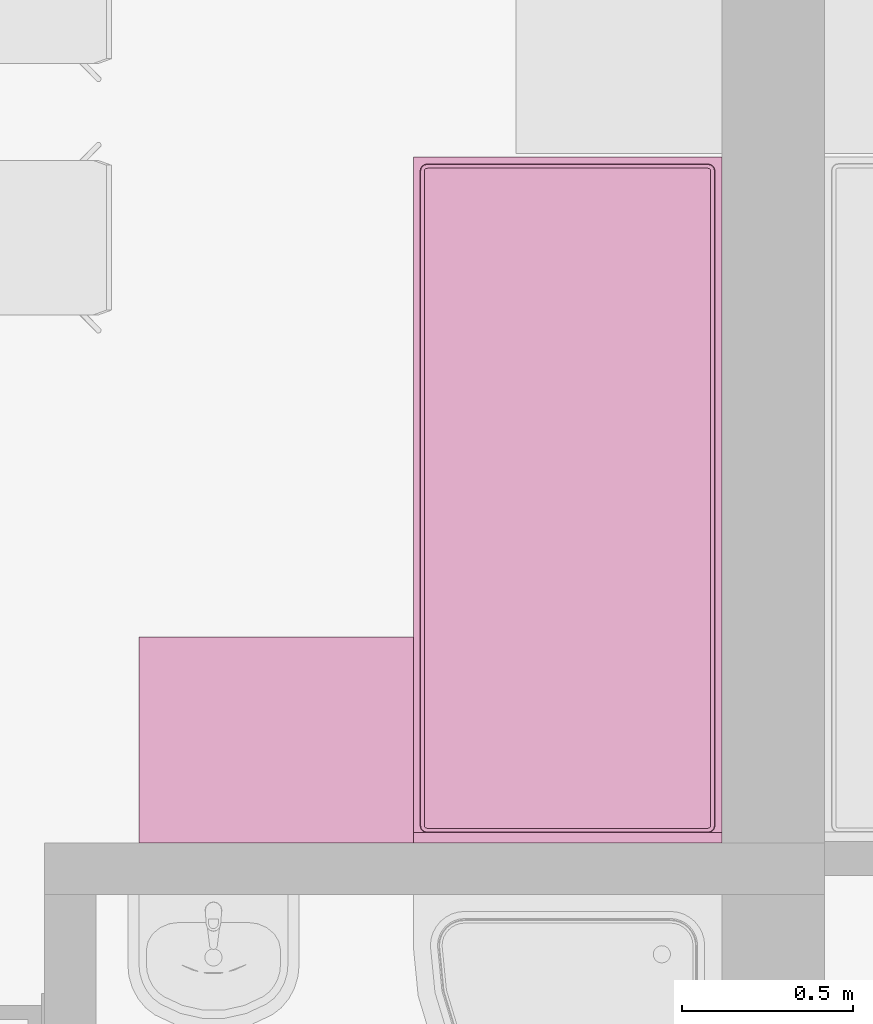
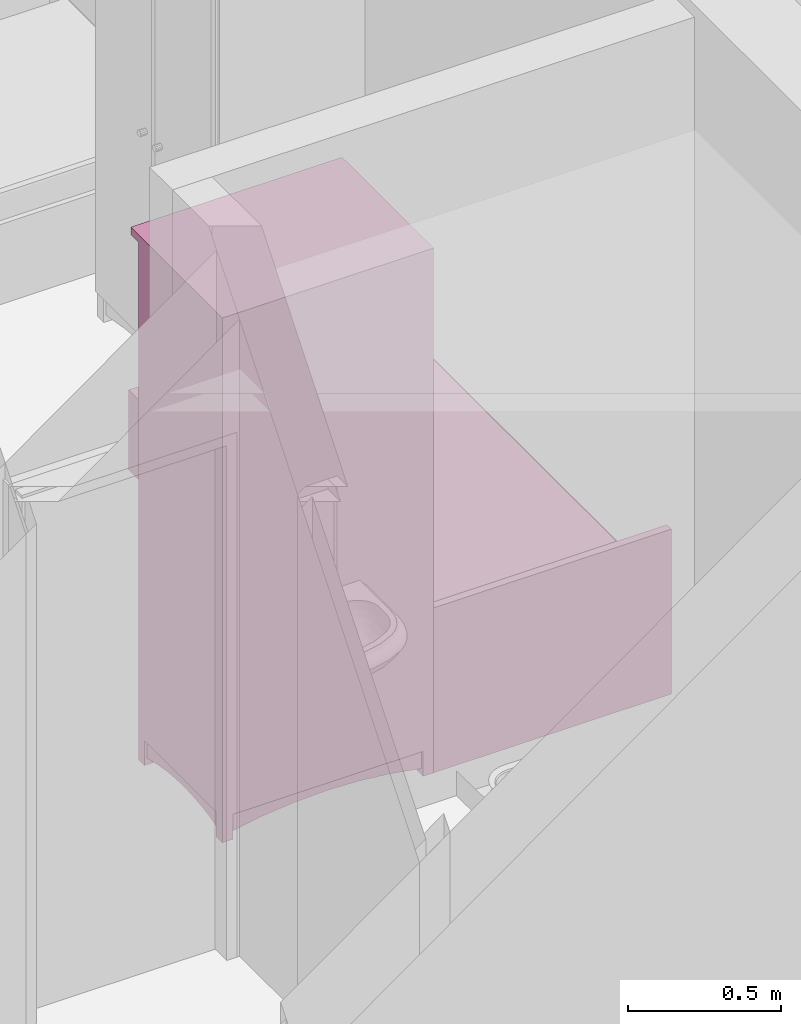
# One storey, part 130 of 165: 2 furnishings.
"""IFC2X3 building model written with IfcOpenShell, lengths in millimetres."""

from ifc_helpers import new_model, entity, si_unit, converted_unit, money_unit, direction, frame, origin_with_axes, place, context, subcontext, project, spatial, faceted_brep, source, transform, mapped, material, material_list, type_object, element, save


model = new_model("IFC2X3")

# Units and contexts
model_context = context("Model", 3, precision=1e-05, world=origin_with_axes(), true_north=direction((0.0, 1.0)))
body_context = subcontext(model_context, "Body", "Model", "MODEL_VIEW")
ifc_project = project(units=[si_unit("LENGTHUNIT", "METRE", prefix="MILLI"), si_unit("AREAUNIT", "SQUARE_METRE"), si_unit("VOLUMEUNIT", "CUBIC_METRE"), converted_unit("PLANEANGLEUNIT", "DEGREE", entity("IfcPlaneAngleMeasure", 0.0174532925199), si_unit("PLANEANGLEUNIT", "RADIAN"), dimensions=[0, 0, 0, 0, 0, 0, 0]), si_unit("SOLIDANGLEUNIT", "STERADIAN"), money_unit("USD"), converted_unit("TIMEUNIT", "Year", entity("IfcTimeMeasure", 31556926.0), si_unit("TIMEUNIT", "SECOND"), dimensions=[0, 0, 0, 0, 0, 0, 0]), si_unit("MASSUNIT", "GRAM"), si_unit("THERMODYNAMICTEMPERATUREUNIT", "DEGREE_CELSIUS"), si_unit("LUMINOUSINTENSITYUNIT", "LUMEN")], contexts=[model_context])

# Site, building, storey
site_placement = place(None, origin_with_axes())
site = spatial("IfcSite", under=ifc_project, at=site_placement, Name="Site", CompositionType="ELEMENT")
building_placement = place(site_placement, origin_with_axes())
building = spatial("IfcBuilding", under=site, at=building_placement, Name="Building", CompositionType="ELEMENT")
storey_placement = place(building_placement, frame((0.0, 0.0, 6300.0), z_axis=(0.0, 0.0, 1.0), x_axis=(1.0, 0.0, 0.0)))
storey = spatial("IfcBuildingStorey", under=building, at=storey_placement, Name="4KORRUS", CompositionType="ELEMENT", Elevation=6300.0)

# Furnishings
ifc_material = material(Name="Background")
ifc_material_list = material_list([ifc_material])
furnishing_element_type_1 = type_object("IfcFurnishingElementType", Name="Cupboard 19")
shared_shape_1 = source(origin_with_axes(), body_context, "Body", "Brep", [
    faceted_brep([(-780.0, 600.0, 120.0), (-780.0, 580.0, 120.0), (-780.0, 580.0, 2050.0), (-780.0, 600.0, 2050.0), (-20.0, 600.0, 120.0), (-20.0, 580.0, 120.0), (-20.0, 580.0, 2050.0), (-20.0, 600.0, 2050.0)], [[[0, 1, 2, 3]], [[0, 4, 5, 1]], [[1, 5, 6, 2]], [[3, 2, 6, 7]], [[4, 0, 3, 7]], [[5, 4, 7, 6]]]),
    faceted_brep([(0.0, 50.0, 100.0), (-20.0, 50.0, 100.0), (-20.0, 600.0, 100.0), (0.0, 600.0, 100.0), (0.0, 50.0, 2070.0), (-20.0, 50.0, 2070.0), (-20.0, 600.0, 2070.0), (0.0, 600.0, 2070.0)], [[[0, 1, 2, 3]], [[1, 0, 4, 5]], [[2, 1, 5, 6]], [[3, 2, 6, 7]], [[0, 3, 7, 4]], [[5, 4, 7, 6]]]),
    faceted_brep([(-780.0, 50.0, 100.0), (-800.0, 50.0, 100.0), (-800.0, 600.0, 100.0), (-780.0, 600.0, 100.0), (-780.0, 50.0, 2070.0), (-800.0, 50.0, 2070.0), (-800.0, 600.0, 2070.0), (-780.0, 600.0, 2070.0)], [[[0, 1, 2, 3]], [[1, 0, 4, 5]], [[2, 1, 5, 6]], [[3, 2, 6, 7]], [[0, 3, 7, 4]], [[5, 4, 7, 6]]]),
    faceted_brep([(-20.0, 50.0, 100.0), (-780.0, 50.0, 100.0), (-780.0, 600.0, 100.0), (-20.0, 600.0, 100.0), (-20.0, 50.0, 120.0), (-780.0, 50.0, 120.0), (-780.0, 600.0, 120.0), (-20.0, 600.0, 120.0)], [[[0, 1, 2, 3]], [[1, 0, 4, 5]], [[2, 1, 5, 6]], [[3, 2, 6, 7]], [[0, 3, 7, 4]], [[5, 4, 7, 6]]]),
    faceted_brep([(-20.0, 50.0, 2050.0), (-780.0, 50.0, 2050.0), (-780.0, 600.0, 2050.0), (-20.0, 600.0, 2050.0), (-20.0, 50.0, 2070.0), (-780.0, 50.0, 2070.0), (-780.0, 600.0, 2070.0), (-20.0, 600.0, 2070.0)], [[[0, 1, 2, 3]], [[1, 0, 4, 5]], [[2, 1, 5, 6]], [[3, 2, 6, 7]], [[0, 3, 7, 4]], [[5, 4, 7, 6]]]),
    faceted_brep([(0.0, 600.0, 2070.0), (0.0, 600.0, 2100.0), (0.0, 0.0, 2100.0), (0.0, 0.0, 2070.0), (-800.0, 600.0, 2070.0), (-800.0, 600.0, 2100.0), (-800.0, 0.0, 2100.0), (-800.0, 0.0, 2070.0)], [[[0, 1, 2, 3]], [[4, 5, 1, 0]], [[1, 5, 6, 2]], [[3, 2, 6, 7]], [[0, 3, 7, 4]], [[7, 6, 5, 4]]]),
    faceted_brep([(-760.0, 590.0, 25.0), (-640.962, 590.0, 45.8), (-640.962, 570.0, 45.8), (-760.0, 570.0, 25.0), (-760.0, 590.0, 100.0), (-40.0, 590.0, 100.0), (-40.0, 590.0, 25.0), (-159.038, 590.0, 45.8), (-279.23, 590.0, 58.32), (-400.0, 590.0, 62.5), (-520.77, 590.0, 58.32), (-520.77, 570.0, 58.32), (-400.0, 570.0, 62.5), (-279.23, 570.0, 58.32), (-159.038, 570.0, 45.8), (-40.0, 570.0, 25.0), (-40.0, 570.0, 100.0), (-760.0, 570.0, 100.0)], [[[0, 1, 2, 3]], [[0, 4, 5, 6, 7, 8, 9, 10, 1]], [[1, 10, 11, 2]], [[3, 2, 11, 12, 13, 14, 15, 16, 17]], [[4, 0, 3, 17]], [[5, 4, 17, 16]], [[6, 5, 16, 15]], [[7, 6, 15, 14]], [[8, 7, 14, 13]], [[9, 8, 13, 12]], [[10, 9, 12, 11]]]),
    faceted_brep([(-760.0, 80.0, 25.0), (-640.962, 80.0, 45.8), (-640.962, 60.0, 45.8), (-760.0, 60.0, 25.0), (-760.0, 80.0, 100.0), (-40.0, 80.0, 100.0), (-40.0, 80.0, 25.0), (-159.038, 80.0, 45.8), (-279.23, 80.0, 58.32), (-400.0, 80.0, 62.5), (-520.77, 80.0, 58.32), (-520.77, 60.0, 58.32), (-400.0, 60.0, 62.5), (-279.23, 60.0, 58.32), (-159.038, 60.0, 45.8), (-40.0, 60.0, 25.0), (-40.0, 60.0, 100.0), (-760.0, 60.0, 100.0)], [[[0, 1, 2, 3]], [[0, 4, 5, 6, 7, 8, 9, 10, 1]], [[1, 10, 11, 2]], [[3, 2, 11, 12, 13, 14, 15, 16, 17]], [[4, 0, 3, 17]], [[5, 4, 17, 16]], [[6, 5, 16, 15]], [[7, 6, 15, 14]], [[8, 7, 14, 13]], [[9, 8, 13, 12]], [[10, 9, 12, 11]]]),
    faceted_brep([(-790.0, 90.0, 25.0), (-790.0, 141.266, 38.072), (-770.0, 141.266, 38.072), (-770.0, 90.0, 25.0), (-790.0, 90.0, 100.0), (-790.0, 560.0, 100.0), (-790.0, 560.0, 25.0), (-790.0, 508.734, 38.072), (-790.0, 456.752, 47.92), (-790.0, 404.257, 54.508), (-790.0, 351.453, 57.808), (-790.0, 298.547, 57.808), (-790.0, 245.743, 54.508), (-790.0, 193.248, 47.92), (-770.0, 193.248, 47.92), (-770.0, 245.743, 54.508), (-770.0, 298.547, 57.808), (-770.0, 351.453, 57.808), (-770.0, 404.257, 54.508), (-770.0, 456.752, 47.92), (-770.0, 508.734, 38.072), (-770.0, 560.0, 25.0), (-770.0, 560.0, 100.0), (-770.0, 90.0, 100.0)], [[[0, 1, 2, 3]], [[0, 4, 5, 6, 7, 8, 9, 10, 11, 12, 13, 1]], [[1, 13, 14, 2]], [[3, 2, 14, 15, 16, 17, 18, 19, 20, 21, 22, 23]], [[4, 0, 3, 23]], [[5, 4, 23, 22]], [[6, 5, 22, 21]], [[7, 6, 21, 20]], [[8, 7, 20, 19]], [[9, 8, 19, 18]], [[10, 9, 18, 17]], [[11, 10, 17, 16]], [[12, 11, 16, 15]], [[13, 12, 15, 14]]]),
    faceted_brep([(-30.0, 90.0, 25.0), (-30.0, 141.266, 38.072), (-10.0, 141.266, 38.072), (-10.0, 90.0, 25.0), (-30.0, 90.0, 100.0), (-30.0, 560.0, 100.0), (-30.0, 560.0, 25.0), (-30.0, 508.734, 38.072), (-30.0, 456.752, 47.92), (-30.0, 404.257, 54.508), (-30.0, 351.453, 57.808), (-30.0, 298.547, 57.808), (-30.0, 245.743, 54.508), (-30.0, 193.248, 47.92), (-10.0, 193.248, 47.92), (-10.0, 245.743, 54.508), (-10.0, 298.547, 57.808), (-10.0, 351.453, 57.808), (-10.0, 404.257, 54.508), (-10.0, 456.752, 47.92), (-10.0, 508.734, 38.072), (-10.0, 560.0, 25.0), (-10.0, 560.0, 100.0), (-10.0, 90.0, 100.0)], [[[0, 1, 2, 3]], [[0, 4, 5, 6, 7, 8, 9, 10, 11, 12, 13, 1]], [[1, 13, 14, 2]], [[3, 2, 14, 15, 16, 17, 18, 19, 20, 21, 22, 23]], [[4, 0, 3, 23]], [[5, 4, 23, 22]], [[6, 5, 22, 21]], [[7, 6, 21, 20]], [[8, 7, 20, 19]], [[9, 8, 19, 18]], [[10, 9, 18, 17]], [[11, 10, 17, 16]], [[12, 11, 16, 15]], [[13, 12, 15, 14]]]),
    faceted_brep([(-760.0, 560.0, 0.0), (-760.0, 600.0, 0.0), (-760.0, 600.0, 100.0), (-760.0, 560.0, 100.0), (-800.0, 560.0, 0.0), (-800.0, 600.0, 0.0), (-800.0, 600.0, 100.0), (-800.0, 560.0, 100.0)], [[[0, 1, 2, 3]], [[0, 4, 5, 1]], [[1, 5, 6, 2]], [[3, 2, 6, 7]], [[4, 0, 3, 7]], [[5, 4, 7, 6]]]),
    faceted_brep([(0.0, 560.0, 0.0), (0.0, 600.0, 0.0), (0.0, 600.0, 100.0), (0.0, 560.0, 100.0), (-40.0, 560.0, 0.0), (-40.0, 600.0, 0.0), (-40.0, 600.0, 100.0), (-40.0, 560.0, 100.0)], [[[0, 1, 2, 3]], [[0, 4, 5, 1]], [[1, 5, 6, 2]], [[3, 2, 6, 7]], [[4, 0, 3, 7]], [[5, 4, 7, 6]]]),
    faceted_brep([(-760.0, 50.0, 0.0), (-760.0, 90.0, 0.0), (-760.0, 90.0, 100.0), (-760.0, 50.0, 100.0), (-800.0, 50.0, 0.0), (-800.0, 90.0, 0.0), (-800.0, 90.0, 100.0), (-800.0, 50.0, 100.0)], [[[0, 1, 2, 3]], [[0, 4, 5, 1]], [[1, 5, 6, 2]], [[3, 2, 6, 7]], [[4, 0, 3, 7]], [[5, 4, 7, 6]]]),
    faceted_brep([(0.0, 50.0, 0.0), (0.0, 90.0, 0.0), (0.0, 90.0, 100.0), (0.0, 50.0, 100.0), (-40.0, 50.0, 0.0), (-40.0, 90.0, 0.0), (-40.0, 90.0, 100.0), (-40.0, 50.0, 100.0)], [[[0, 1, 2, 3]], [[0, 4, 5, 1]], [[1, 5, 6, 2]], [[3, 2, 6, 7]], [[4, 0, 3, 7]], [[5, 4, 7, 6]]]),
    faceted_brep([(-780.0, 580.0, 587.5), (-780.0, 50.0, 587.5), (-780.0, 50.0, 607.5), (-780.0, 580.0, 607.5), (-20.0, 580.0, 587.5), (-20.0, 50.0, 587.5), (-20.0, 50.0, 607.5), (-20.0, 580.0, 607.5)], [[[0, 1, 2, 3]], [[0, 4, 5, 1]], [[1, 5, 6, 2]], [[3, 2, 6, 7]], [[4, 0, 3, 7]], [[5, 4, 7, 6]]]),
    faceted_brep([(-780.0, 580.0, 1075.0), (-780.0, 50.0, 1075.0), (-780.0, 50.0, 1095.0), (-780.0, 580.0, 1095.0), (-20.0, 580.0, 1075.0), (-20.0, 50.0, 1075.0), (-20.0, 50.0, 1095.0), (-20.0, 580.0, 1095.0)], [[[0, 1, 2, 3]], [[0, 4, 5, 1]], [[1, 5, 6, 2]], [[3, 2, 6, 7]], [[4, 0, 3, 7]], [[5, 4, 7, 6]]]),
    faceted_brep([(-780.0, 580.0, 1562.5), (-780.0, 50.0, 1562.5), (-780.0, 50.0, 1582.5), (-780.0, 580.0, 1582.5), (-20.0, 580.0, 1562.5), (-20.0, 50.0, 1562.5), (-20.0, 50.0, 1582.5), (-20.0, 580.0, 1582.5)], [[[0, 1, 2, 3]], [[0, 4, 5, 1]], [[1, 5, 6, 2]], [[3, 2, 6, 7]], [[4, 0, 3, 7]], [[5, 4, 7, 6]]]),
    faceted_brep([(-789.5, 50.0, 110.5), (-789.5, 50.0, 2059.5), (-400.5, 50.0, 2059.5), (-400.5, 50.0, 110.5), (-789.5, 40.0, 110.5), (-789.5, 40.0, 2059.5), (-400.5, 40.0, 2059.5), (-400.5, 40.0, 110.5), (-779.5, 30.0, 120.5), (-779.5, 30.0, 2049.5), (-410.5, 30.0, 2049.5), (-410.5, 30.0, 120.5)], [[[0, 1, 2, 3]], [[1, 0, 4, 5]], [[2, 1, 5, 6]], [[3, 2, 6, 7]], [[0, 3, 7, 4]], [[5, 4, 8, 9]], [[6, 5, 9, 10]], [[7, 6, 10, 11]], [[4, 7, 11, 8]], [[10, 9, 8, 11]]]),
    faceted_brep([(-399.5, 50.0, 110.5), (-399.5, 50.0, 2059.5), (-10.5, 50.0, 2059.5), (-10.5, 50.0, 110.5), (-399.5, 40.0, 110.5), (-399.5, 40.0, 2059.5), (-10.5, 40.0, 2059.5), (-10.5, 40.0, 110.5), (-389.5, 30.0, 120.5), (-389.5, 30.0, 2049.5), (-20.5, 30.0, 2049.5), (-20.5, 30.0, 120.5)], [[[0, 1, 2, 3]], [[1, 0, 4, 5]], [[2, 1, 5, 6]], [[3, 2, 6, 7]], [[0, 3, 7, 4]], [[5, 4, 8, 9]], [[6, 5, 9, 10]], [[7, 6, 10, 11]], [[4, 7, 11, 8]], [[10, 9, 8, 11]]]),
    faceted_brep([(-339.608, 30.0, 954.0), (-344.0, 30.0, 949.608), (-350.0, 30.0, 948.0), (-356.0, 30.0, 949.608), (-360.392, 30.0, 954.0), (-362.0, 30.0, 960.0), (-360.392, 30.0, 966.0), (-356.0, 30.0, 970.392), (-350.0, 30.0, 972.0), (-344.0, 30.0, 970.392), (-339.608, 30.0, 966.0), (-338.0, 30.0, 960.0), (-339.608, 5.0, 954.0), (-344.0, 5.0, 949.608), (-350.0, 5.0, 948.0), (-356.0, 5.0, 949.608), (-360.392, 5.0, 954.0), (-362.0, 5.0, 960.0), (-360.392, 5.0, 966.0), (-356.0, 5.0, 970.392), (-350.0, 5.0, 972.0), (-344.0, 5.0, 970.392), (-339.608, 5.0, 966.0), (-338.0, 5.0, 960.0)], [[[0, 1, 2, 3, 4, 5, 6, 7, 8, 9, 10, 11]], [[1, 0, 12, 13]], [[2, 1, 13, 14]], [[3, 2, 14, 15]], [[4, 3, 15, 16]], [[5, 4, 16, 17]], [[6, 5, 17, 18]], [[7, 6, 18, 19]], [[8, 7, 19, 20]], [[9, 8, 20, 21]], [[10, 9, 21, 22]], [[11, 10, 22, 23]], [[0, 11, 23, 12]], [[12, 23, 22, 21, 20, 19, 18, 17, 16, 15, 14, 13]]]),
    faceted_brep([(-460.392, 30.0, 954.0), (-462.0, 30.0, 960.0), (-460.392, 30.0, 966.0), (-456.0, 30.0, 970.392), (-450.0, 30.0, 972.0), (-444.0, 30.0, 970.392), (-439.608, 30.0, 966.0), (-438.0, 30.0, 960.0), (-439.608, 30.0, 954.0), (-444.0, 30.0, 949.608), (-450.0, 30.0, 948.0), (-456.0, 30.0, 949.608), (-460.392, 5.0, 954.0), (-462.0, 5.0, 960.0), (-460.392, 5.0, 966.0), (-456.0, 5.0, 970.392), (-450.0, 5.0, 972.0), (-444.0, 5.0, 970.392), (-439.608, 5.0, 966.0), (-438.0, 5.0, 960.0), (-439.608, 5.0, 954.0), (-444.0, 5.0, 949.608), (-450.0, 5.0, 948.0), (-456.0, 5.0, 949.608)], [[[0, 1, 2, 3, 4, 5, 6, 7, 8, 9, 10, 11]], [[0, 12, 13, 1]], [[1, 13, 14, 2]], [[2, 14, 15, 3]], [[3, 15, 16, 4]], [[4, 16, 17, 5]], [[5, 17, 18, 6]], [[6, 18, 19, 7]], [[7, 19, 20, 8]], [[8, 20, 21, 9]], [[9, 21, 22, 10]], [[10, 22, 23, 11]], [[11, 23, 12, 0]], [[12, 23, 22, 21, 20, 19, 18, 17, 16, 15, 14, 13]]]),
])
furnishing_1_placement = place(storey_placement, frame((-1990.29670331, -8617.37850445, 0.0), z_axis=(0.0, 0.0, 1.0), x_axis=(-1.0, 0.0, 0.0)))
element("IfcFurnishingElement", 1, at=furnishing_1_placement, inside=storey, type_object=furnishing_element_type_1, material=ifc_material_list, Name="FU - 014", context=body_context, shape_type="MappedRepresentation", body=[
    mapped(shared_shape_1, transform((0.0, 0.0, 0.0))),
])
furnishing_element_type_2 = type_object("IfcFurnishingElementType", Name="Bed 19")
shared_shape_2 = source(origin_with_axes(), body_context, "Body", "Brep", [
    faceted_brep([(-900.0, 1970.0, 0.0), (-900.0, 2000.0, 0.0), (0.0, 2000.0, 0.0), (0.0, 1970.0, 0.0), (-900.0, 1970.0, 660.0), (-900.0, 2000.0, 660.0), (0.0, 2000.0, 660.0), (0.0, 1970.0, 660.0)], [[[0, 1, 2, 3]], [[0, 4, 5, 1]], [[1, 5, 6, 2]], [[2, 6, 7, 3]], [[3, 7, 4, 0]], [[7, 6, 5, 4]]]),
    faceted_brep([(-900.0, 0.0, 0.0), (-900.0, 1970.0, 0.0), (0.0, 1970.0, 0.0), (0.0, 0.0, 0.0), (-900.0, 0.0, 320.0), (-900.0, 1970.0, 320.0), (0.0, 1970.0, 320.0), (0.0, 0.0, 320.0)], [[[0, 1, 2, 3]], [[0, 4, 5, 1]], [[1, 5, 6, 2]], [[2, 6, 7, 3]], [[3, 7, 4, 0]], [[7, 6, 5, 4]]]),
    faceted_brep([(-905.0, 10.0, 30.0), (-905.0, 695.0, 30.0), (-900.0, 695.0, 30.0), (-900.0, 10.0, 30.0), (-905.0, 10.0, 290.0), (-905.0, 695.0, 290.0), (-900.0, 695.0, 290.0), (-900.0, 10.0, 290.0)], [[[0, 1, 2, 3]], [[0, 4, 5, 1]], [[1, 5, 6, 2]], [[2, 6, 7, 3]], [[3, 7, 4, 0]], [[7, 6, 5, 4]]]),
    faceted_brep([(-935.0, 307.5, 150.0), (-935.0, 397.5, 150.0), (-905.0, 397.5, 150.0), (-905.0, 307.5, 150.0), (-935.0, 307.5, 170.0), (-935.0, 397.5, 170.0), (-905.0, 397.5, 170.0), (-905.0, 307.5, 170.0)], [[[0, 1, 2, 3]], [[0, 4, 5, 1]], [[1, 5, 6, 2]], [[2, 6, 7, 3]], [[3, 7, 4, 0]], [[7, 6, 5, 4]]]),
    faceted_brep([(-905.0, 705.0, 30.0), (-905.0, 1390.0, 30.0), (-900.0, 1390.0, 30.0), (-900.0, 705.0, 30.0), (-905.0, 705.0, 290.0), (-905.0, 1390.0, 290.0), (-900.0, 1390.0, 290.0), (-900.0, 705.0, 290.0)], [[[0, 1, 2, 3]], [[0, 4, 5, 1]], [[1, 5, 6, 2]], [[2, 6, 7, 3]], [[3, 7, 4, 0]], [[7, 6, 5, 4]]]),
    faceted_brep([(-935.0, 1002.5, 150.0), (-935.0, 1092.5, 150.0), (-905.0, 1092.5, 150.0), (-905.0, 1002.5, 150.0), (-935.0, 1002.5, 170.0), (-935.0, 1092.5, 170.0), (-905.0, 1092.5, 170.0), (-905.0, 1002.5, 170.0)], [[[0, 1, 2, 3]], [[0, 4, 5, 1]], [[1, 5, 6, 2]], [[2, 6, 7, 3]], [[3, 7, 4, 0]], [[7, 6, 5, 4]]]),
    faceted_brep([(-20.0, 40.0, 350.0), (-21.522, 32.346, 350.0), (-25.858, 25.858, 350.0), (-32.346, 21.522, 350.0), (-40.0, 20.0, 350.0), (-860.0, 20.0, 350.0), (-867.654, 21.522, 350.0), (-874.142, 25.858, 350.0), (-878.478, 32.346, 350.0), (-880.0, 40.0, 350.0), (-880.0, 1950.0, 350.0), (-878.478, 1957.654, 350.0), (-874.142, 1964.142, 350.0), (-867.654, 1968.478, 350.0), (-860.0, 1970.0, 350.0), (-40.0, 1970.0, 350.0), (-32.346, 1968.478, 350.0), (-25.858, 1964.142, 350.0), (-21.522, 1957.654, 350.0), (-20.0, 1950.0, 350.0), (-20.0, 40.0, 420.0), (-21.522, 32.346, 420.0), (-25.858, 25.858, 420.0), (-32.346, 21.522, 420.0), (-40.0, 20.0, 420.0), (-860.0, 20.0, 420.0), (-867.654, 21.522, 420.0), (-874.142, 25.858, 420.0), (-878.478, 32.346, 420.0), (-880.0, 40.0, 420.0), (-880.0, 1950.0, 420.0), (-878.478, 1957.654, 420.0), (-874.142, 1964.142, 420.0), (-867.654, 1968.478, 420.0), (-860.0, 1970.0, 420.0), (-40.0, 1970.0, 420.0), (-32.346, 1968.478, 420.0), (-25.858, 1964.142, 420.0), (-21.522, 1957.654, 420.0), (-20.0, 1950.0, 420.0), (-21.522, 40.15, 427.654), (-22.956, 32.94, 427.654), (-26.955, 26.955, 427.654), (-32.94, 22.956, 427.654), (-40.15, 21.522, 427.654), (-859.85, 21.522, 427.654), (-867.06, 22.956, 427.654), (-873.045, 26.955, 427.654), (-877.044, 32.94, 427.654), (-878.478, 40.15, 427.654), (-878.478, 1949.85, 427.654), (-877.044, 1957.06, 427.654), (-873.045, 1963.045, 427.654), (-867.06, 1967.044, 427.654), (-859.85, 1968.478, 427.654), (-40.15, 1968.478, 427.654), (-32.94, 1967.044, 427.654), (-26.955, 1963.045, 427.654), (-22.956, 1957.06, 427.654), (-21.522, 1949.85, 427.654), (-32.346, 41.216, 438.478), (-33.152, 37.164, 438.478), (-34.759, 34.759, 438.478), (-37.164, 33.152, 438.478), (-41.216, 32.346, 438.478), (-858.784, 32.346, 438.478), (-862.836, 33.152, 438.478), (-865.241, 34.759, 438.478), (-866.848, 37.164, 438.478), (-867.654, 41.216, 438.478), (-867.654, 1948.784, 438.478), (-866.848, 1952.836, 438.478), (-865.241, 1955.241, 438.478), (-862.836, 1956.848, 438.478), (-858.784, 1957.654, 438.478), (-41.216, 1957.654, 438.478), (-37.164, 1956.848, 438.478), (-34.759, 1955.241, 438.478), (-33.152, 1952.836, 438.478), (-32.346, 1948.784, 438.478), (-40.0, 41.97, 440.0), (-40.327, 40.327, 440.0), (-40.0, 40.0, 439.924), (-41.97, 40.0, 440.0), (-858.03, 40.0, 440.0), (-859.673, 40.327, 440.0), (-860.0, 40.0, 439.924), (-860.0, 41.97, 440.0), (-860.0, 1948.03, 440.0), (-859.673, 1949.673, 440.0), (-860.0, 1950.0, 439.924), (-858.03, 1950.0, 440.0), (-41.97, 1950.0, 440.0), (-40.327, 1949.673, 440.0), (-40.0, 1950.0, 439.924), (-40.0, 1948.03, 440.0)], [[[0, 1, 2, 3, 4, 5, 6, 7, 8, 9, 10, 11, 12, 13, 14, 15, 16, 17, 18, 19]], [[0, 20, 21, 1]], [[1, 21, 22, 2]], [[2, 22, 23, 3]], [[3, 23, 24, 4]], [[4, 24, 25, 5]], [[5, 25, 26, 6]], [[6, 26, 27, 7]], [[7, 27, 28, 8]], [[8, 28, 29, 9]], [[9, 29, 30, 10]], [[10, 30, 31, 11]], [[11, 31, 32, 12]], [[12, 32, 33, 13]], [[13, 33, 34, 14]], [[14, 34, 35, 15]], [[15, 35, 36, 16]], [[16, 36, 37, 17]], [[17, 37, 38, 18]], [[18, 38, 39, 19]], [[19, 39, 20, 0]], [[20, 40, 41, 21]], [[21, 41, 42, 22]], [[22, 42, 43, 23]], [[23, 43, 44, 24]], [[24, 44, 45, 25]], [[25, 45, 46, 26]], [[26, 46, 47, 27]], [[27, 47, 48, 28]], [[28, 48, 49, 29]], [[29, 49, 50, 30]], [[30, 50, 51, 31]], [[31, 51, 52, 32]], [[32, 52, 53, 33]], [[33, 53, 54, 34]], [[34, 54, 55, 35]], [[35, 55, 56, 36]], [[36, 56, 57, 37]], [[37, 57, 58, 38]], [[38, 58, 59, 39]], [[39, 59, 40, 20]], [[40, 60, 61, 41]], [[41, 61, 62, 42]], [[42, 62, 63, 43]], [[43, 63, 64, 44]], [[44, 64, 65, 45]], [[45, 65, 66, 46]], [[46, 66, 67, 47]], [[47, 67, 68, 48]], [[48, 68, 69, 49]], [[49, 69, 70, 50]], [[50, 70, 71, 51]], [[51, 71, 72, 52]], [[52, 72, 73, 53]], [[53, 73, 74, 54]], [[54, 74, 75, 55]], [[55, 75, 76, 56]], [[56, 76, 77, 57]], [[57, 77, 78, 58]], [[58, 78, 79, 59]], [[59, 79, 60, 40]], [[60, 80, 81, 82, 61]], [[61, 82, 62]], [[62, 82, 63]], [[63, 82, 81, 83, 64]], [[64, 83, 84, 65]], [[65, 84, 85, 86, 66]], [[66, 86, 67]], [[67, 86, 68]], [[68, 86, 85, 87, 69]], [[69, 87, 88, 70]], [[70, 88, 89, 90, 71]], [[71, 90, 72]], [[72, 90, 73]], [[73, 90, 89, 91, 74]], [[74, 91, 92, 75]], [[75, 92, 93, 94, 76]], [[76, 94, 77]], [[77, 94, 78]], [[78, 94, 93, 95, 79]], [[79, 95, 80, 60]], [[95, 93, 92, 91, 89, 88, 87, 85, 84, 83, 81, 80]]]),
    faceted_brep([(-20.0, 40.0, 350.0), (-20.0, 1950.0, 350.0), (-21.522, 1957.654, 350.0), (-25.858, 1964.142, 350.0), (-32.346, 1968.478, 350.0), (-40.0, 1970.0, 350.0), (-860.0, 1970.0, 350.0), (-867.654, 1968.478, 350.0), (-874.142, 1964.142, 350.0), (-878.478, 1957.654, 350.0), (-880.0, 1950.0, 350.0), (-880.0, 40.0, 350.0), (-878.478, 32.346, 350.0), (-874.142, 25.858, 350.0), (-867.654, 21.522, 350.0), (-860.0, 20.0, 350.0), (-40.0, 20.0, 350.0), (-32.346, 21.522, 350.0), (-25.858, 25.858, 350.0), (-21.522, 32.346, 350.0), (-20.0, 40.0, 320.0), (-20.0, 1950.0, 320.0), (-21.522, 1957.654, 320.0), (-25.858, 1964.142, 320.0), (-32.346, 1968.478, 320.0), (-40.0, 1970.0, 320.0), (-860.0, 1970.0, 320.0), (-867.654, 1968.478, 320.0), (-874.142, 1964.142, 320.0), (-878.478, 1957.654, 320.0), (-880.0, 1950.0, 320.0), (-880.0, 40.0, 320.0), (-878.478, 32.346, 320.0), (-874.142, 25.858, 320.0), (-867.654, 21.522, 320.0), (-860.0, 20.0, 320.0), (-40.0, 20.0, 320.0), (-32.346, 21.522, 320.0), (-25.858, 25.858, 320.0), (-21.522, 32.346, 320.0)], [[[0, 1, 2, 3, 4, 5, 6, 7, 8, 9, 10, 11, 12, 13, 14, 15, 16, 17, 18, 19]], [[1, 0, 20, 21]], [[2, 1, 21, 22]], [[3, 2, 22, 23]], [[4, 3, 23, 24]], [[5, 4, 24, 25]], [[6, 5, 25, 26]], [[7, 6, 26, 27]], [[8, 7, 27, 28]], [[9, 8, 28, 29]], [[10, 9, 29, 30]], [[11, 10, 30, 31]], [[12, 11, 31, 32]], [[13, 12, 32, 33]], [[14, 13, 33, 34]], [[15, 14, 34, 35]], [[16, 15, 35, 36]], [[17, 16, 36, 37]], [[18, 17, 37, 38]], [[19, 18, 38, 39]], [[0, 19, 39, 20]], [[20, 39, 38, 37, 36, 35, 34, 33, 32, 31, 30, 29, 28, 27, 26, 25, 24, 23, 22, 21]]]),
])
furnishing_2_placement = place(storey_placement, frame((-1190.29670331, -7217.37850445, 0.0), z_axis=(0.0, 0.0, 1.0), x_axis=(-1.0, 0.0, 0.0)))
element("IfcFurnishingElement", 2, at=furnishing_2_placement, inside=storey, type_object=furnishing_element_type_2, material=ifc_material_list, Name="FU - 013", context=body_context, shape_type="MappedRepresentation", body=[
    mapped(shared_shape_2, transform((0.0, 0.0, 0.0))),
])

save(model, "model.ifc")
